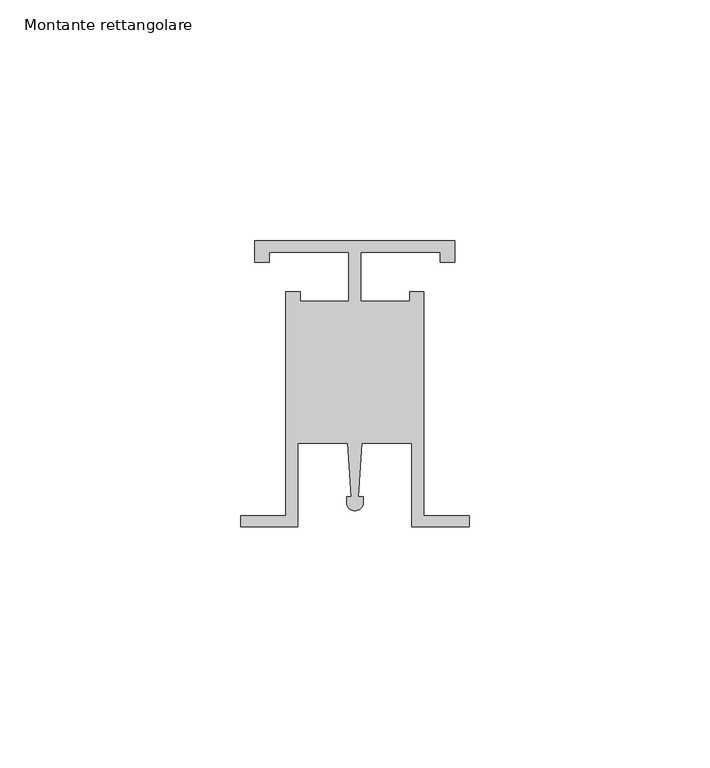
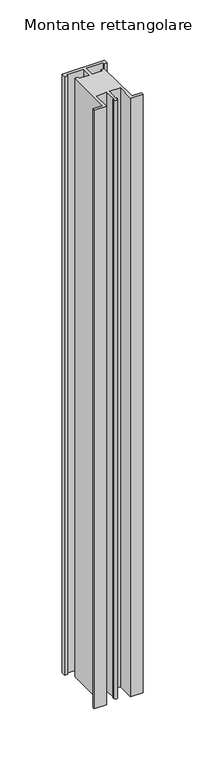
"""IFC4 building model written with IfcOpenShell, lengths in millimetres: member geometry, Montante rettangolare : Verde Profilo's Uprights."""

from ifc_helpers import new_model, si_unit, point, frame, frame_2d, origin, place, context, project, spatial, polyline, circle_curve, trimmed, segment, composite_curve, outline, extrude, source, transform, mapped, element, save


def montante_rettangolare_962a7c70(model_context):
    return source(origin(), model_context, "Body", "SweptSolid", [
        extrude(outline(composite_curve([segment(polyline([(-3.0, 0.0), (-3.0, -4.4643434), (-5.9763281, -4.4643434), (-5.9763281, -2.4801246), (-22.5192241, -2.4801246), (-22.5192241, -12.5992217), (-12.4008018, -12.5992217), (-12.4008018, -10.6150029), (-9.4244736, -10.6150029), (-9.4244736, -57.1992491), (0.0, -57.1992491), (0.0, -59.5229914), (-11.9045983, -59.5229914), (-11.9045983, -42.1200913), (-22.2878429, -42.1200913), (-23.0155567, -53.2310496), (-22.0219337, -53.2310496), (-22.0219337, -54.4070013)]), True, "CONTINUOUS"), segment(trimmed(circle_curve(frame_2d((-23.7595941, -54.4070013)), 1.7376604), [point((-22.0219337, -54.4070013))], [point((-25.4972545, -54.4070013))], False, "CARTESIAN"), True, "CONTINUOUS"), segment(polyline([(-25.4972545, -54.4070013), (-25.4972545, -53.2310496), (-24.5036314, -53.2310496), (-25.2313452, -42.1200913), (-35.6145898, -42.1200913), (-35.6145898, -59.5229914), (-47.5191881, -59.5229914), (-47.5191881, -57.1992491), (-38.0947145, -57.1992491), (-38.0947145, -10.6150029), (-35.1183863, -10.6150029), (-35.1183863, -12.5992217), (-24.999964, -12.5992217), (-24.999964, -2.4801246), (-41.54286, -2.4801246), (-41.54286, -4.4643434), (-44.5191881, -4.4643434), (-44.5191881, 0.0), (-3.0, 0.0)]), True, "CONTINUOUS")], self_intersect=False)), frame((0.0, 0.0, -617.5198754), z_axis=(0.0, 0.0, 1.0), x_axis=(1.0, 0.0, 0.0)), (0.0, 0.0, 1.0), 617.5198754),
    ])


if __name__ == "__main__":
    model = new_model("IFC4")
    model_context = context("Model", 3, world=origin())
    ifc_project = project(units=[si_unit("LENGTHUNIT", "METRE", prefix="MILLI")], contexts=[model_context])
    site = spatial("IfcSite", under=ifc_project)
    building = spatial("IfcBuilding", under=site)
    placement = place(None, origin())
    montante_rettangolare_shape = montante_rettangolare_962a7c70(model_context)
    element("IfcMember", 1, ObjectType="Montante rettangolare : Verde Profilo's Uprights", at=placement, inside=building, context=model_context, shape_type="MappedRepresentation", body=[
        mapped(montante_rettangolare_shape, transform((0.0, 0.0, 0.0), x_axis=(1.0, 0.0, 0.0), y_axis=(0.0, 1.0, 0.0), z_axis=(0.0, 0.0, 1.0))),
    ])
    save(model, "model.ifc")
